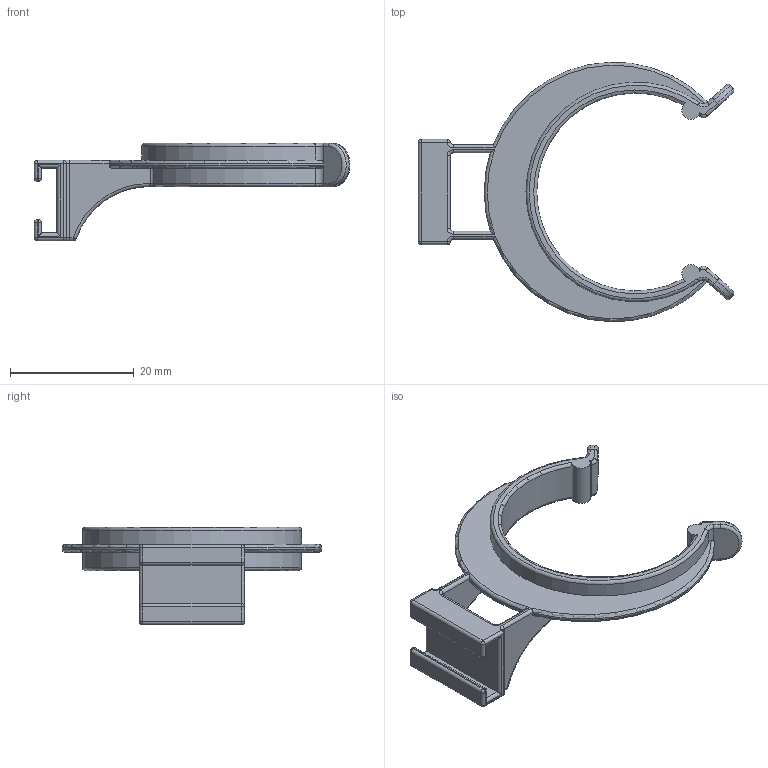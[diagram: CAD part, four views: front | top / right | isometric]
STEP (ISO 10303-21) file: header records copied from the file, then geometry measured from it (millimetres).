
FILE_DESCRIPTION((''),'2;1');
FILE_NAME('69_0025','2014-03-06T',('dsc'),(''),'PRO/ENGINEER BY PARAMETRIC TECHNOLOGY CORPORATION, 2012360','PRO/ENGINEER BY PARAMETRIC TECHNOLOGY CORPORATION, 2012360','');
FILE_SCHEMA(('CONFIG_CONTROL_DESIGN'));
Length unit declared in the file: millimetre
Products named in the file (1): 69_0025
Bounding box: 51.09 x 41.98 x 15.75 mm (x, y, z)
Volume: 2394.7 mm3; surface area: 3503.6 mm2
Topology: 1 solids, 1 shells, 175 faces, 402 edges, 228 vertices
Faces by surface type: cylinder 82, torus 44, plane 27, sphere 20, bspline 2
Entity records: 5196 total; most frequent: CARTESIAN_POINT 1169, DIRECTION 912, ORIENTED_EDGE 804, EDGE_CURVE 402, AXIS2_PLACEMENT_3D 379, VERTEX_POINT 228, CIRCLE 206, EDGE_LOOP 176
